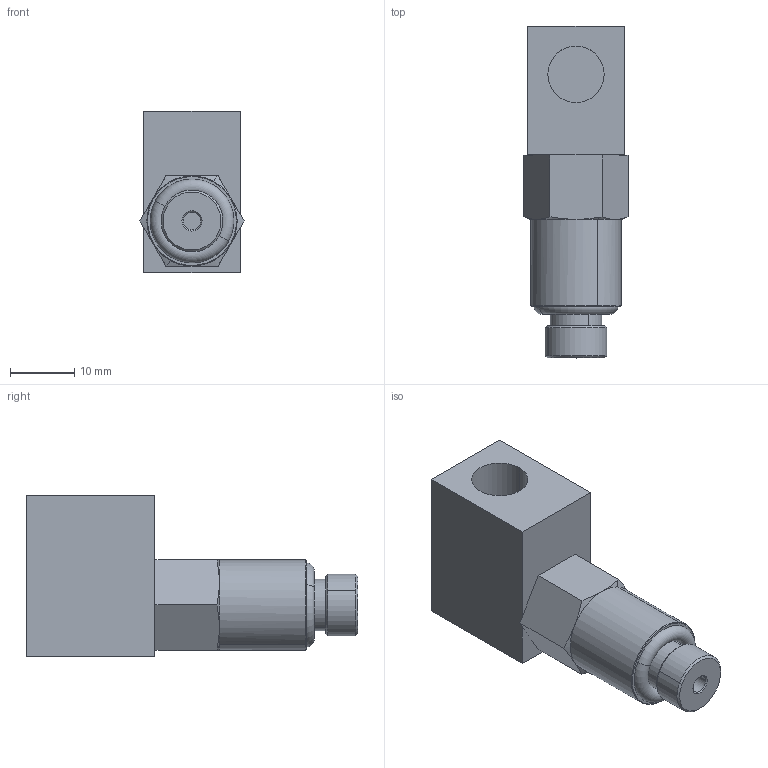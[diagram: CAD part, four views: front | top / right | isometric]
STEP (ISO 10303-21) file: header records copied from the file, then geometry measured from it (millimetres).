
FILE_DESCRIPTION(('CATIA V5 STEP Exchange'),'2;1');
FILE_NAME('C:\Users\Anderj\Desktop\RMF-C.1.stp','2016-11-24T08:39:45+00:00',('none'),('none'),'CATIA Version 5 Release 17 (IN-10)','CATIA V5 STEP AP203','none');
FILE_SCHEMA(('CONFIG_CONTROL_DESIGN'));
Length unit declared in the file: millimetre
Products named in the file (1): RMF-C.1
Bounding box: 16.17 x 51.5 x 25 mm (x, y, z)
Volume: 11053.8 mm3; surface area: 4570.2 mm2
Topology: 2 solids, 2 shells, 55 faces, 124 edges, 76 vertices
Faces by surface type: plane 21, cone 16, cylinder 14, torus 4
Entity records: 1500 total; most frequent: CARTESIAN_POINT 342, ORIENTED_EDGE 248, DIRECTION 180, EDGE_CURVE 124, AXIS2_PLACEMENT_3D 90, VERTEX_POINT 76, EDGE_LOOP 60, VECTOR 56
